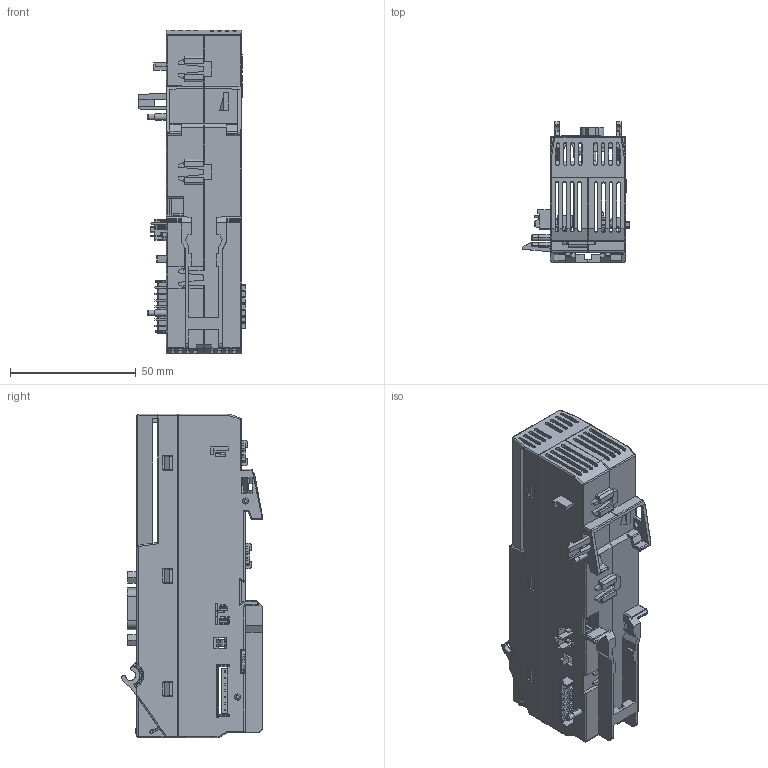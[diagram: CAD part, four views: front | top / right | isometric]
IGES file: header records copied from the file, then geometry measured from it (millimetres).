
Start section:  PTC IGES file: 2036222
Global section: file name: 2036222; native system: Creo Parametric by PTC Inc.; preprocessor: 2019292; author: t.hampe; organization: Unknown; date: 20240306.162655; units: millimetre
Bounding box: 42.27 x 55.97 x 128.92 mm (x, y, z)
Surface area: 55772.3 mm2 (no closed solid volume)
Topology: 0 solids, 0 shells, 3536 faces, 18994 edges, 18962 vertices
Faces by surface type: bspline 2289, revolution 1234, extrusion 13
